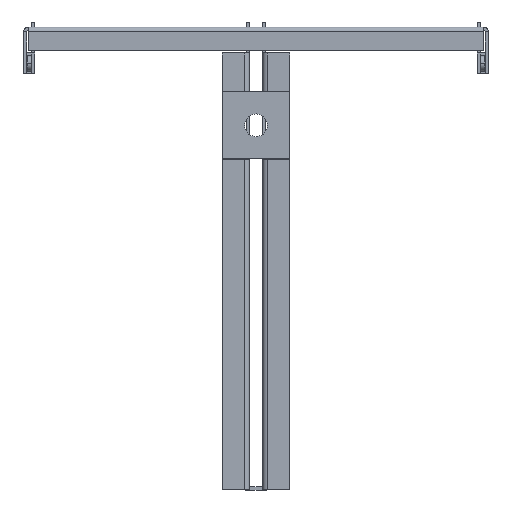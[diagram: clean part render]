
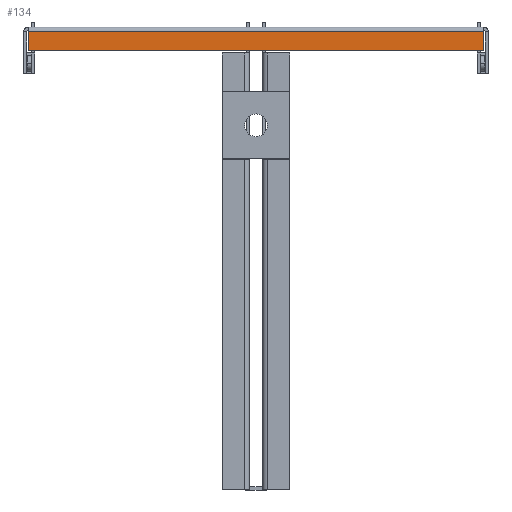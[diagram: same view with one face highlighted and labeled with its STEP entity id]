
A CAD part, front view. The second image highlights one B-rep face of the part: STEP entity #134.
In plain terms, the highlighted planar face has unit normal (0, -1, 0) as drawn and (0, 0, 1) by its records, which use the part's own axes.
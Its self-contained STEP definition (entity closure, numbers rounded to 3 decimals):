
#134 = ADVANCED_FACE ( 'NONE', ( #2070 ), #4510, .T. ) ;
#1112 = ORIENTED_EDGE ( 'NONE', *, *, #10768, .F. ) ;
#1113 = ORIENTED_EDGE ( 'NONE', *, *, #10762, .F. ) ;
#1114 = ORIENTED_EDGE ( 'NONE', *, *, #10760, .T. ) ;
#1115 = ORIENTED_EDGE ( 'NONE', *, *, #10766, .F. ) ;
#1416 = EDGE_LOOP ( 'NONE', ( #1115, #1114, #1113, #1112 ) ) ;
#2070 = FACE_OUTER_BOUND ( 'NONE', #1416, .T. ) ;
#3286 = AXIS2_PLACEMENT_3D ( 'NONE', #4511, #4512, #4513 ) ;
#4510 = PLANE ( 'NONE',  #3286 ) ;
#4511 = CARTESIAN_POINT ( 'NONE',  ( 4.5, 0., 4.5 ) ) ;
#4512 = DIRECTION ( 'NONE',  ( 0., 0., 1. ) ) ;
#4513 = DIRECTION ( 'NONE',  ( 0., -1., 0. ) ) ;
#5938 = CARTESIAN_POINT ( 'NONE',  ( 445.5, -1.5, 4.5 ) ) ;
#5940 = CARTESIAN_POINT ( 'NONE',  ( 4.5, -1.5, 4.5 ) ) ;
#5941 = CARTESIAN_POINT ( 'NONE',  ( 4.5, -20., 4.5 ) ) ;
#5944 = CARTESIAN_POINT ( 'NONE',  ( 445.5, -20., 4.5 ) ) ;
#6538 = CARTESIAN_POINT ( 'NONE',  ( 4.5, -1.5, 4.5 ) ) ;
#6539 = DIRECTION ( 'NONE',  ( -1., 0., 0. ) ) ;
#6542 = CARTESIAN_POINT ( 'NONE',  ( 4.5, 0., 4.5 ) ) ;
#6543 = DIRECTION ( 'NONE',  ( 0., 1., 0. ) ) ;
#6550 = CARTESIAN_POINT ( 'NONE',  ( 445.5, -20., 4.5 ) ) ;
#6551 = DIRECTION ( 'NONE',  ( 0., -1., 0. ) ) ;
#6554 = CARTESIAN_POINT ( 'NONE',  ( 4.5, -20., 4.5 ) ) ;
#6555 = DIRECTION ( 'NONE',  ( -1., 0., 0. ) ) ;
#6716 = LINE ( 'NONE', #6538, #6718 ) ;
#6718 = VECTOR ( 'NONE', #6539, 1000. ) ;
#6721 = LINE ( 'NONE', #6542, #6722 ) ;
#6722 = VECTOR ( 'NONE', #6543, 1000. ) ;
#6729 = LINE ( 'NONE', #6550, #6730 ) ;
#6730 = VECTOR ( 'NONE', #6551, 1000. ) ;
#6733 = LINE ( 'NONE', #6554, #6734 ) ;
#6734 = VECTOR ( 'NONE', #6555, 1000. ) ;
#9895 = VERTEX_POINT ( 'NONE', #5938 ) ;
#9897 = VERTEX_POINT ( 'NONE', #5940 ) ;
#9898 = VERTEX_POINT ( 'NONE', #5941 ) ;
#9901 = VERTEX_POINT ( 'NONE', #5944 ) ;
#10760 = EDGE_CURVE ( 'NONE', #9895, #9897, #6716, .T. ) ;
#10762 = EDGE_CURVE ( 'NONE', #9898, #9897, #6721, .T. ) ;
#10766 = EDGE_CURVE ( 'NONE', #9895, #9901, #6729, .T. ) ;
#10768 = EDGE_CURVE ( 'NONE', #9901, #9898, #6733, .T. ) ;
